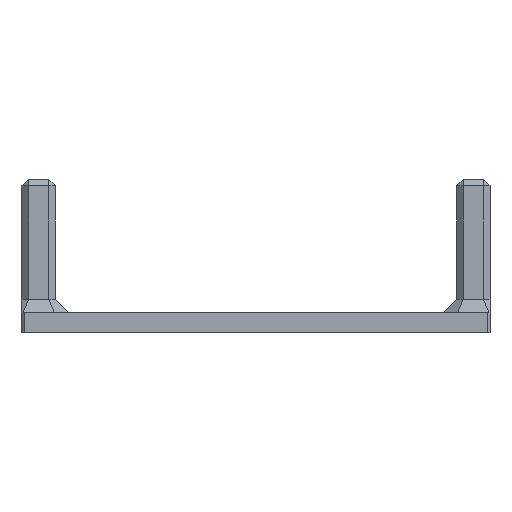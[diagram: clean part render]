
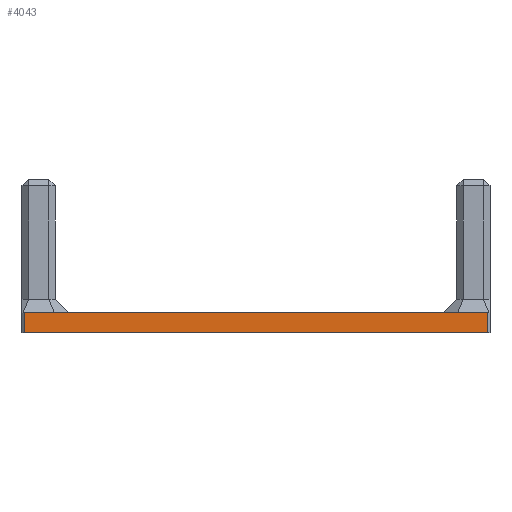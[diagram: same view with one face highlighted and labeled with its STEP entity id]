
A CAD part, left-side view. The second image highlights one B-rep face of the part: STEP entity #4043.
In plain terms, the highlighted planar face has unit normal (-1, 0, 0).
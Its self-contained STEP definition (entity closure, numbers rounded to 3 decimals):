
#352 = VERTEX_POINT ( 'NONE', #9850 ) ;
#378 = EDGE_LOOP ( 'NONE', ( #11008, #12583, #14292, #7204 ) ) ;
#483 = CARTESIAN_POINT ( 'NONE',  ( 0., 0., 0. ) ) ;
#563 = DIRECTION ( 'NONE',  ( 0., 0., 1. ) ) ;
#1075 = VECTOR ( 'NONE', #3100, 1000. ) ;
#1407 = VERTEX_POINT ( 'NONE', #3427 ) ;
#2367 = VERTEX_POINT ( 'NONE', #5325 ) ;
#3100 = DIRECTION ( 'NONE',  ( 0., 1., 0. ) ) ;
#3169 = PLANE ( 'NONE',  #18456 ) ;
#3373 = CARTESIAN_POINT ( 'NONE',  ( 0., 0.3, 3. ) ) ;
#3427 = CARTESIAN_POINT ( 'NONE',  ( 0., 69.7, 3. ) ) ;
#4043 = ADVANCED_FACE ( 'NONE', ( #10294 ), #3169, .T. ) ;
#4119 = VERTEX_POINT ( 'NONE', #11701 ) ;
#4788 = LINE ( 'NONE', #483, #10273 ) ;
#5325 = CARTESIAN_POINT ( 'NONE',  ( 0., 69.7, 0. ) ) ;
#7204 = ORIENTED_EDGE ( 'NONE', *, *, #10032, .T. ) ;
#8426 = VECTOR ( 'NONE', #14049, 1000. ) ;
#8512 = DIRECTION ( 'NONE',  ( 0., 0., 1. ) ) ;
#8800 = DIRECTION ( 'NONE',  ( -1., 0., 0. ) ) ;
#9054 = VECTOR ( 'NONE', #563, 1000. ) ;
#9285 = DIRECTION ( 'NONE',  ( 0., 1., 0. ) ) ;
#9850 = CARTESIAN_POINT ( 'NONE',  ( 0., 0.3, 3. ) ) ;
#10032 = EDGE_CURVE ( 'NONE', #1407, #2367, #15646, .T. ) ;
#10273 = VECTOR ( 'NONE', #9285, 1000. ) ;
#10294 = FACE_OUTER_BOUND ( 'NONE', #378, .T. ) ;
#10943 = EDGE_CURVE ( 'NONE', #4119, #352, #12097, .T. ) ;
#11008 = ORIENTED_EDGE ( 'NONE', *, *, #14374, .F. ) ;
#11701 = CARTESIAN_POINT ( 'NONE',  ( 0., 0.3, 0. ) ) ;
#11919 = LINE ( 'NONE', #14732, #1075 ) ;
#12097 = LINE ( 'NONE', #3373, #9054 ) ;
#12583 = ORIENTED_EDGE ( 'NONE', *, *, #10943, .T. ) ;
#14049 = DIRECTION ( 'NONE',  ( 0., 0., -1. ) ) ;
#14292 = ORIENTED_EDGE ( 'NONE', *, *, #17838, .T. ) ;
#14374 = EDGE_CURVE ( 'NONE', #4119, #2367, #4788, .T. ) ;
#14732 = CARTESIAN_POINT ( 'NONE',  ( 0., 0., 3. ) ) ;
#15646 = LINE ( 'NONE', #18453, #8426 ) ;
#16024 = CARTESIAN_POINT ( 'NONE',  ( 0., 0., 3. ) ) ;
#17838 = EDGE_CURVE ( 'NONE', #352, #1407, #11919, .T. ) ;
#18453 = CARTESIAN_POINT ( 'NONE',  ( 0., 69.7, 3. ) ) ;
#18456 = AXIS2_PLACEMENT_3D ( 'NONE', #16024, #8800, #8512 ) ;
